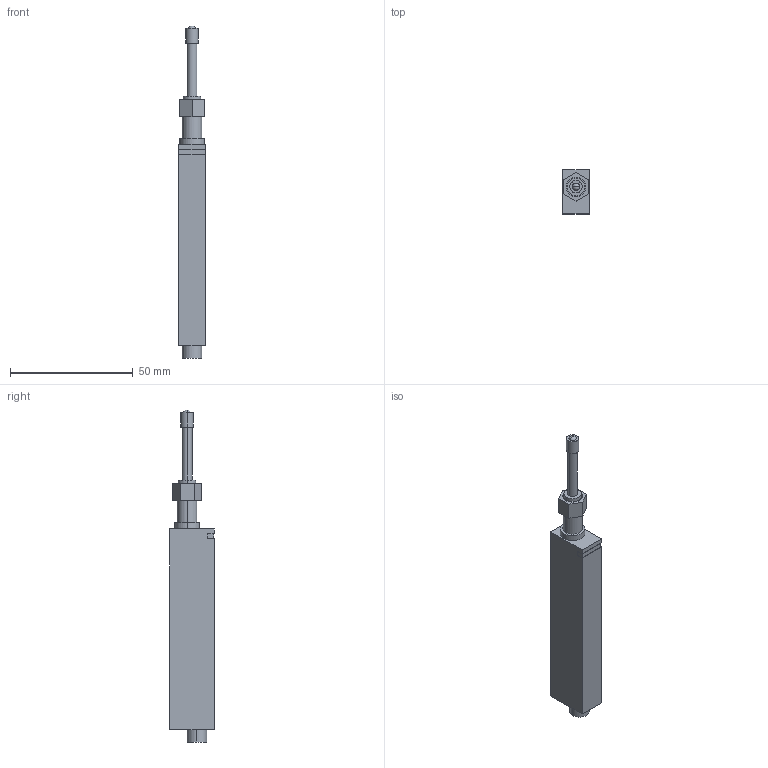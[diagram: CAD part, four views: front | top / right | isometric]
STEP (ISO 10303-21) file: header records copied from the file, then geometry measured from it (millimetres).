
FILE_DESCRIPTION (( 'STEP AP203' ), '1' );
FILE_NAME ('hg-s1010r.STEP', '2015-10-05T02:51:12', ( '**********' ), ( '**********' ), 'SwSTEP 2.0', 'SolidWorks 2010', '' );
FILE_SCHEMA (( 'CONFIG_CONTROL_DESIGN' ));
Length unit declared in the file: millimetre
Products named in the file (3): hg-s1010_nut; hg-s1010r
Assembly tree (2 placements, depth 2):
  hg-s1010r
    hg-s1010r
    hg-s1010_nut
Bounding box: 11 x 18 x 135.5 mm (x, y, z)
Volume: 18175.9 mm3; surface area: 6871.2 mm2
Topology: 4 solids, 4 shells, 52 faces, 112 edges, 75 vertices
Faces by surface type: plane 32, cylinder 18, sphere 2
Entity records: 1729 total; most frequent: DIRECTION 266, CARTESIAN_POINT 244, ORIENTED_EDGE 224, EDGE_CURVE 112, AXIS2_PLACEMENT_3D 97, VERTEX_POINT 75, LINE 72, VECTOR 72
